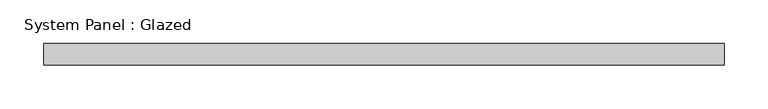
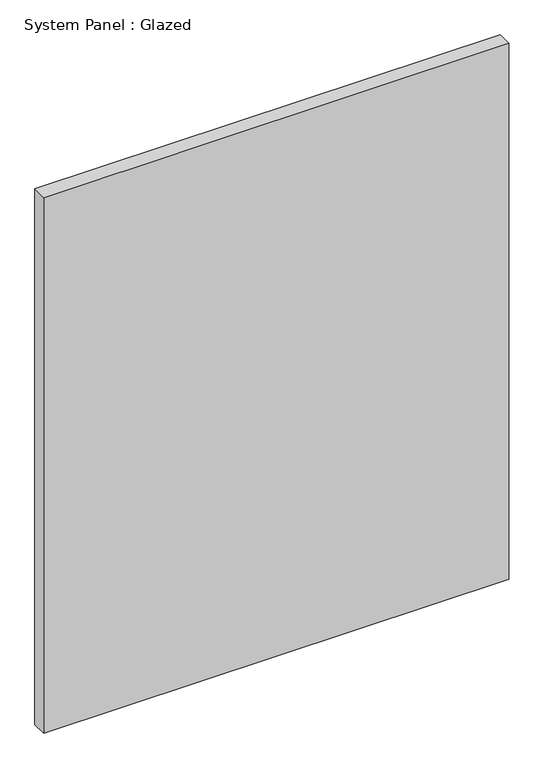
"""IFC4 building model written with IfcOpenShell, lengths in millimetres: plate geometry, System Panel : Glazed."""

from ifc_helpers import new_model, si_unit, origin, origin_with_axes, place, context, project, spatial, polyline, outline, extrude, source, transform, mapped, element, save


def system_panel_glazed_11873290(model_context):
    return source(origin(), model_context, "Body", "SweptSolid", [
        extrude(outline(polyline([(390.3574548, 24.5), (-390.3574548, 24.5), (-390.3574548, 49.5), (390.3574548, 49.5), (390.3574548, 24.5)])), origin_with_axes(), (0.0, 0.0, 1.0), 950.0),
    ])


if __name__ == "__main__":
    model = new_model("IFC4")
    model_context = context("Model", 3, world=origin())
    ifc_project = project(units=[si_unit("LENGTHUNIT", "METRE", prefix="MILLI")], contexts=[model_context])
    site = spatial("IfcSite", under=ifc_project)
    building = spatial("IfcBuilding", under=site)
    placement = place(None, origin())
    system_panel_glazed_shape = system_panel_glazed_11873290(model_context)
    element("IfcPlate", 1, ObjectType="System Panel : Glazed", at=placement, inside=building, context=model_context, shape_type="MappedRepresentation", body=[
        mapped(system_panel_glazed_shape, transform((0.0, 0.0, 0.0), x_axis=(1.0, 0.0, 0.0), y_axis=(0.0, 1.0, 0.0), z_axis=(0.0, 0.0, 1.0))),
    ])
    save(model, "model.ifc")
